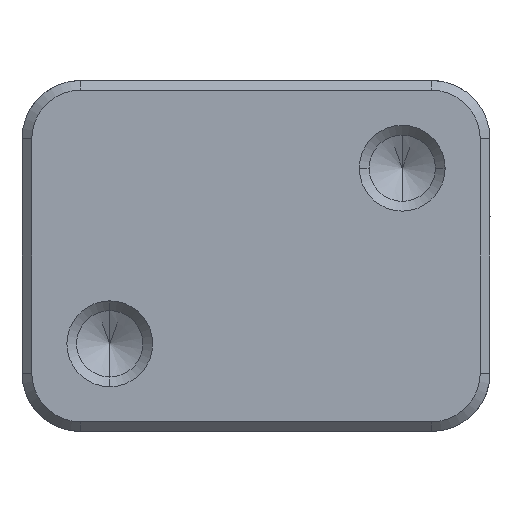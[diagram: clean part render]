
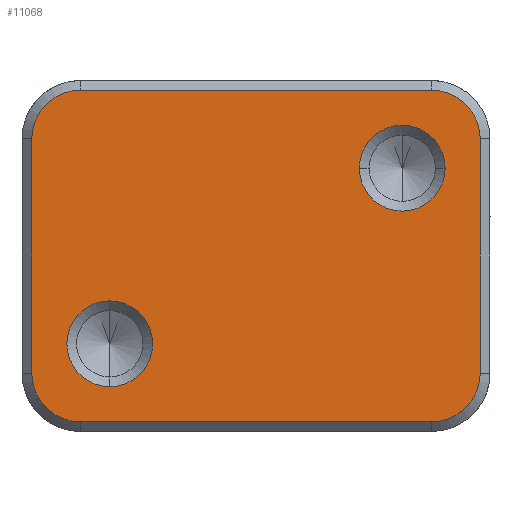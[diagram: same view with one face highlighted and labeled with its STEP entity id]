
A CAD part, front view. The second image highlights one B-rep face of the part: STEP entity #11068.
In plain terms, the highlighted planar face has unit normal (0, -1, 0).
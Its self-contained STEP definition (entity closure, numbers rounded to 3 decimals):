
#200 = DIRECTION ( 'NONE',  ( 0., 0., -1. ) ) ;
#480 = CIRCLE ( 'NONE', #12099, 4.4 ) ;
#913 = DIRECTION ( 'NONE',  ( 0., 0., 1. ) ) ;
#925 = EDGE_CURVE ( 'NONE', #7336, #9422, #6823, .T. ) ;
#1407 = VERTEX_POINT ( 'NONE', #3449 ) ;
#1416 = VECTOR ( 'NONE', #6257, 1000. ) ;
#1432 = CIRCLE ( 'NONE', #11343, 4.999 ) ;
#1444 = ORIENTED_EDGE ( 'NONE', *, *, #6972, .T. ) ;
#1534 = CARTESIAN_POINT ( 'NONE',  ( -195.7, 0., -17.009 ) ) ;
#1877 = EDGE_CURVE ( 'NONE', #11878, #1407, #6894, .T. ) ;
#2155 = ORIENTED_EDGE ( 'NONE', *, *, #6408, .T. ) ;
#2253 = CARTESIAN_POINT ( 'NONE',  ( 18., 0., -17.009 ) ) ;
#2336 = CARTESIAN_POINT ( 'NONE',  ( 15., 0., 8.993 ) ) ;
#2369 = CARTESIAN_POINT ( 'NONE',  ( 18., 0., -12.009 ) ) ;
#2394 = AXIS2_PLACEMENT_3D ( 'NONE', #7725, #8732, #13684 ) ;
#2769 = EDGE_CURVE ( 'NONE', #5224, #10246, #2883, .T. ) ;
#2883 = LINE ( 'NONE', #7621, #5110 ) ;
#3048 = FACE_BOUND ( 'NONE', #7049, .T. ) ;
#3084 = DIRECTION ( 'NONE',  ( 0., 0., -1. ) ) ;
#3440 = AXIS2_PLACEMENT_3D ( 'NONE', #4049, #8793, #12356 ) ;
#3449 = CARTESIAN_POINT ( 'NONE',  ( -18., 0., 16.992 ) ) ;
#3520 = CARTESIAN_POINT ( 'NONE',  ( -15., 0., -9.009 ) ) ;
#3957 = EDGE_CURVE ( 'NONE', #7650, #9695, #7255, .T. ) ;
#3976 = FACE_BOUND ( 'NONE', #10507, .T. ) ;
#4049 = CARTESIAN_POINT ( 'NONE',  ( 24., 0., 17.992 ) ) ;
#4146 = EDGE_CURVE ( 'NONE', #8059, #9932, #13042, .T. ) ;
#4484 = DIRECTION ( 'NONE',  ( -1., 0., 0. ) ) ;
#4566 = EDGE_CURVE ( 'NONE', #1407, #5224, #14033, .T. ) ;
#4651 = CARTESIAN_POINT ( 'NONE',  ( 18., 0., 11.993 ) ) ;
#4692 = DIRECTION ( 'NONE',  ( 0., -1., 0. ) ) ;
#4706 = CARTESIAN_POINT ( 'NONE',  ( 24., 0., 16.992 ) ) ;
#4765 = DIRECTION ( 'NONE',  ( 0., -1., 0. ) ) ;
#5100 = VECTOR ( 'NONE', #4484, 1000. ) ;
#5110 = VECTOR ( 'NONE', #12495, 1000. ) ;
#5224 = VERTEX_POINT ( 'NONE', #8872 ) ;
#5541 = CARTESIAN_POINT ( 'NONE',  ( -15., 0., -13.409 ) ) ;
#5658 = CARTESIAN_POINT ( 'NONE',  ( 23., 0., 11.993 ) ) ;
#6012 = CARTESIAN_POINT ( 'NONE',  ( -18., 0., -17.009 ) ) ;
#6108 = CARTESIAN_POINT ( 'NONE',  ( 19.4, 0., 8.993 ) ) ;
#6184 = CARTESIAN_POINT ( 'NONE',  ( -15., 0., -4.609 ) ) ;
#6257 = DIRECTION ( 'NONE',  ( 1., 0., 0. ) ) ;
#6408 = EDGE_CURVE ( 'NONE', #7475, #15258, #12158, .T. ) ;
#6448 = ORIENTED_EDGE ( 'NONE', *, *, #2769, .T. ) ;
#6526 = ORIENTED_EDGE ( 'NONE', *, *, #3957, .T. ) ;
#6645 = CIRCLE ( 'NONE', #7894, 4.999 ) ;
#6823 = CIRCLE ( 'NONE', #11283, 4.4 ) ;
#6894 = LINE ( 'NONE', #4706, #5100 ) ;
#6972 = EDGE_CURVE ( 'NONE', #9695, #11878, #8868, .T. ) ;
#7049 = EDGE_LOOP ( 'NONE', ( #10295, #12298 ) ) ;
#7255 = LINE ( 'NONE', #11832, #10816 ) ;
#7336 = VERTEX_POINT ( 'NONE', #6184 ) ;
#7475 = VERTEX_POINT ( 'NONE', #6012 ) ;
#7556 = EDGE_CURVE ( 'NONE', #15258, #7650, #1432, .T. ) ;
#7621 = CARTESIAN_POINT ( 'NONE',  ( -23., 0., 17.992 ) ) ;
#7650 = VERTEX_POINT ( 'NONE', #10975 ) ;
#7725 = CARTESIAN_POINT ( 'NONE',  ( 15., 0., 8.993 ) ) ;
#7894 = AXIS2_PLACEMENT_3D ( 'NONE', #15308, #4692, #913 ) ;
#8014 = ORIENTED_EDGE ( 'NONE', *, *, #7556, .T. ) ;
#8059 = VERTEX_POINT ( 'NONE', #6108 ) ;
#8199 = ORIENTED_EDGE ( 'NONE', *, *, #9176, .T. ) ;
#8732 = DIRECTION ( 'NONE',  ( 0., 1., 0. ) ) ;
#8793 = DIRECTION ( 'NONE',  ( 0., -1., 0. ) ) ;
#8851 = EDGE_CURVE ( 'NONE', #9932, #8059, #10614, .T. ) ;
#8868 = CIRCLE ( 'NONE', #12325, 4.999 ) ;
#8872 = CARTESIAN_POINT ( 'NONE',  ( -23., 0., 11.993 ) ) ;
#8948 = CARTESIAN_POINT ( 'NONE',  ( -23., 0., -12.009 ) ) ;
#9176 = EDGE_CURVE ( 'NONE', #10246, #7475, #6645, .T. ) ;
#9362 = DIRECTION ( 'NONE',  ( 0., 0., 1. ) ) ;
#9397 = DIRECTION ( 'NONE',  ( 0., -1., 0. ) ) ;
#9422 = VERTEX_POINT ( 'NONE', #5541 ) ;
#9581 = DIRECTION ( 'NONE',  ( 0., 1., 0. ) ) ;
#9695 = VERTEX_POINT ( 'NONE', #5658 ) ;
#9932 = VERTEX_POINT ( 'NONE', #15311 ) ;
#9951 = CARTESIAN_POINT ( 'NONE',  ( 18., 0., 16.992 ) ) ;
#10155 = CARTESIAN_POINT ( 'NONE',  ( -15., 0., -9.009 ) ) ;
#10246 = VERTEX_POINT ( 'NONE', #8948 ) ;
#10264 = FACE_OUTER_BOUND ( 'NONE', #11992, .T. ) ;
#10295 = ORIENTED_EDGE ( 'NONE', *, *, #4146, .T. ) ;
#10401 = ORIENTED_EDGE ( 'NONE', *, *, #10514, .T. ) ;
#10493 = DIRECTION ( 'NONE',  ( 0., 1., 0. ) ) ;
#10507 = EDGE_LOOP ( 'NONE', ( #10401, #13669 ) ) ;
#10514 = EDGE_CURVE ( 'NONE', #9422, #7336, #480, .T. ) ;
#10614 = CIRCLE ( 'NONE', #12590, 4.4 ) ;
#10816 = VECTOR ( 'NONE', #14220, 1000. ) ;
#10975 = CARTESIAN_POINT ( 'NONE',  ( 23., 0., -12.009 ) ) ;
#11057 = ORIENTED_EDGE ( 'NONE', *, *, #4566, .T. ) ;
#11068 = ADVANCED_FACE ( 'NONE', ( #10264, #3976, #3048 ), #14897, .T. ) ;
#11283 = AXIS2_PLACEMENT_3D ( 'NONE', #3520, #9581, #200 ) ;
#11343 = AXIS2_PLACEMENT_3D ( 'NONE', #2369, #4765, #9362 ) ;
#11721 = DIRECTION ( 'NONE',  ( 0., -1., 0. ) ) ;
#11832 = CARTESIAN_POINT ( 'NONE',  ( 23., 0., 17.992 ) ) ;
#11878 = VERTEX_POINT ( 'NONE', #9951 ) ;
#11992 = EDGE_LOOP ( 'NONE', ( #11057, #6448, #8199, #2155, #8014, #6526, #1444, #14349 ) ) ;
#12018 = DIRECTION ( 'NONE',  ( 0., 0., 1. ) ) ;
#12099 = AXIS2_PLACEMENT_3D ( 'NONE', #10155, #14862, #3084 ) ;
#12158 = LINE ( 'NONE', #1534, #1416 ) ;
#12235 = DIRECTION ( 'NONE',  ( 0., 0., 1. ) ) ;
#12298 = ORIENTED_EDGE ( 'NONE', *, *, #8851, .T. ) ;
#12325 = AXIS2_PLACEMENT_3D ( 'NONE', #4651, #9397, #12018 ) ;
#12356 = DIRECTION ( 'NONE',  ( 1., 0., 0. ) ) ;
#12495 = DIRECTION ( 'NONE',  ( 0., 0., -1. ) ) ;
#12590 = AXIS2_PLACEMENT_3D ( 'NONE', #2336, #10493, #15207 ) ;
#13042 = CIRCLE ( 'NONE', #2394, 4.4 ) ;
#13298 = AXIS2_PLACEMENT_3D ( 'NONE', #14631, #11721, #12235 ) ;
#13669 = ORIENTED_EDGE ( 'NONE', *, *, #925, .T. ) ;
#13684 = DIRECTION ( 'NONE',  ( 1., 0., 0. ) ) ;
#14033 = CIRCLE ( 'NONE', #13298, 4.999 ) ;
#14220 = DIRECTION ( 'NONE',  ( 0., 0., 1. ) ) ;
#14349 = ORIENTED_EDGE ( 'NONE', *, *, #1877, .T. ) ;
#14631 = CARTESIAN_POINT ( 'NONE',  ( -18., 0., 11.993 ) ) ;
#14862 = DIRECTION ( 'NONE',  ( 0., 1., 0. ) ) ;
#14897 = PLANE ( 'NONE',  #3440 ) ;
#15207 = DIRECTION ( 'NONE',  ( 1., 0., 0. ) ) ;
#15258 = VERTEX_POINT ( 'NONE', #2253 ) ;
#15308 = CARTESIAN_POINT ( 'NONE',  ( -18., 0., -12.009 ) ) ;
#15311 = CARTESIAN_POINT ( 'NONE',  ( 10.6, 0., 8.993 ) ) ;
